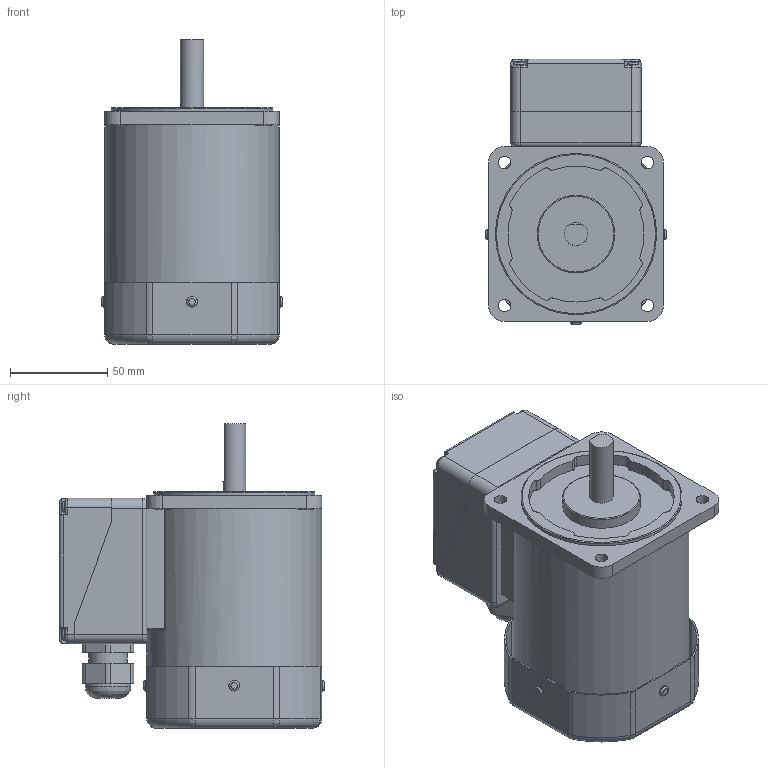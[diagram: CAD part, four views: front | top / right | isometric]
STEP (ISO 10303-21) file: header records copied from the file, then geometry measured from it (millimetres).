
FILE_DESCRIPTION((''),'2;1');
FILE_NAME('E:\2공장-도면\3D\표준형 3D(민규)\step file\K9IS60Fㅁ-T5.stp','2014-11-13T09:51:50',('AHN'),(''),'Autodesk Inventor 2012','Autodesk Inventor 2012','');
FILE_SCHEMA(('CONFIG_CONTROL_DESIGN'));
Length unit declared in the file: millimetre
Products named in the file (5): K9IS60Fㅁ-T5; K9IS60Fㅁ; 케이블; BASE(a); COVER(a)
Assembly tree (4 placements, depth 2):
  K9IS60Fㅁ-T5
    K9IS60Fㅁ
    케이블
    BASE(a)
    COVER(a)
Bounding box: 93 x 136.5 x 157 mm (x, y, z)
Volume: 773829.3 mm3; surface area: 123396 mm2
Topology: 4 solids, 10 shells, 697 faces, 1718 edges, 1043 vertices
Faces by surface type: cylinder 315, plane 185, torus 138, bspline 31, sphere 20, cone 8
Full cylindrical faces by diameter (mm): 3.242 x4, 3.5 x4, 4.5 x4, 5.5 x8, 6.5 x4, 8 x4, 12 x1, 20 x1, 21 x1, 23.5 x1, 40 x1, 83 x1, 90 x1
Entity records: 22126 total; most frequent: CARTESIAN_POINT 5510, DIRECTION 3710, ORIENTED_EDGE 3266, EDGE_CURVE 1633, AXIS2_PLACEMENT_3D 1503, VERTEX_POINT 1024, CIRCLE 820, EDGE_LOOP 817
